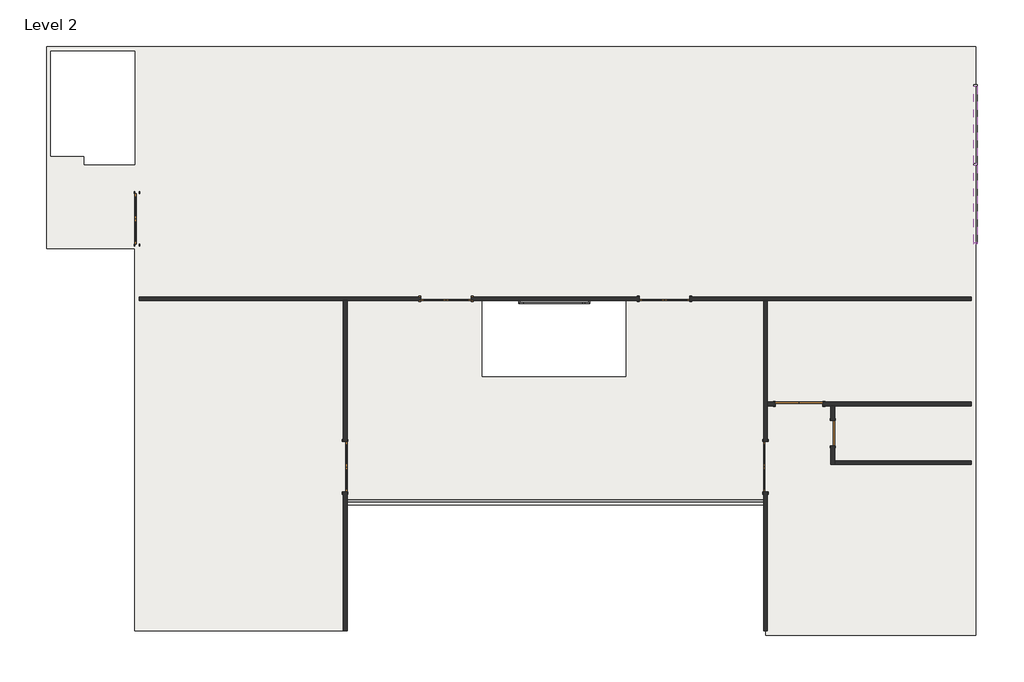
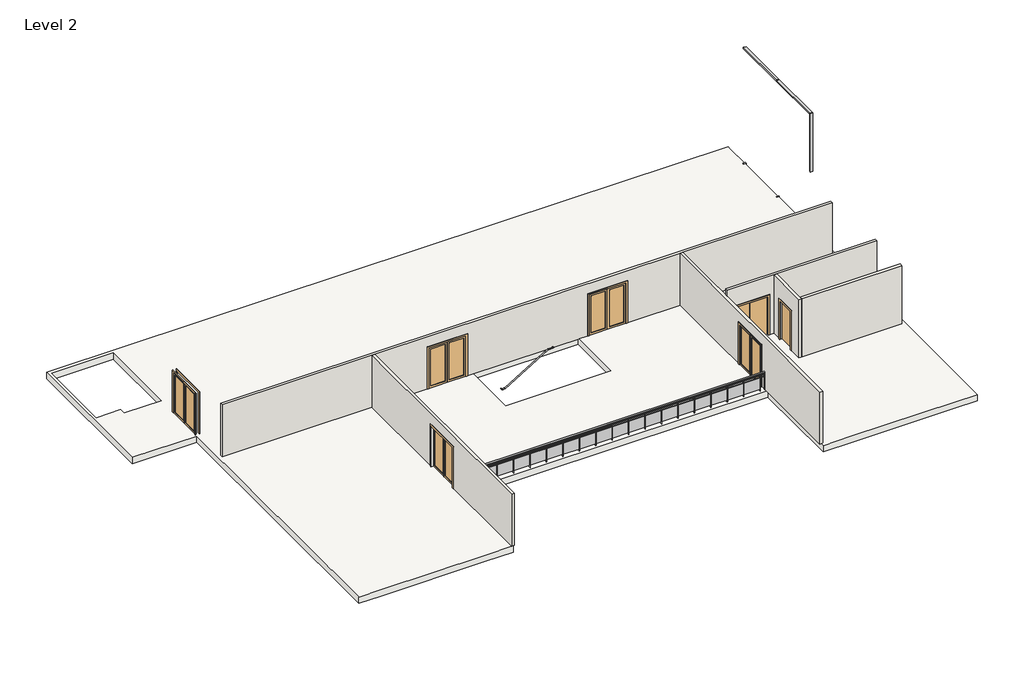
# One storey: 7 doors, 7 members, 6 walls, 2 railings, 1 slab.
"""IFC4 building model written with IfcOpenShell, lengths in millimetres."""

from ifc_helpers import new_model, si_unit, point, frame, origin, place, context, project, spatial, polyline, circle_curve, ellipse_curve, trimmed, outline, extrude, faceted_brep, transform, mapped, element, save
from ifc_brep_helpers import plane_surface, cylinder_surface, extruded_surface, advanced_brep
from components import door_dbb109fa, door_cb31edf2, door_3f2f997e, door_ad1ac78c, member_eaba9652, member_3f395ae9, member_b11f405a

model = new_model("IFC4")

# Units and contexts
model_context = context("Model", 3, world=origin())
ifc_project = project(units=[si_unit("LENGTHUNIT", "METRE", prefix="MILLI")], contexts=[model_context])

# Site, building, storey
site = spatial("IfcSite", under=ifc_project)
building = spatial("IfcBuilding", under=site)
storey = spatial("IfcBuildingStorey", under=building, Name="Level 2", Elevation=3048.0)

# Doors
placement = place(None, origin())
door_shape = door_dbb109fa(model_context)
element("IfcDoor", 1, ObjectType="Door-Double-Flush_Panel : 68\" x 80\"", at=placement, inside=storey, context=model_context, shape_type="MappedRepresentation", body=[
    mapped(door_shape, transform((5750.282618, 2799.5983604, 3048.0), x_axis=(1.0, 0.0, 0.0), y_axis=(0.0, 1.0, 0.0), z_axis=(0.0, 0.0, 1.0))),
])
door_2_shape = door_cb31edf2(model_context)
element("IfcDoor", 2, ObjectType="Door-Double-Glass : 72\" x 84\"", at=placement, inside=storey, context=model_context, shape_type="MappedRepresentation", body=[
    mapped(door_2_shape, transform((-18248.748632, 9505.1983604, 3048.0), x_axis=(0.0, 1.0, 0.0), y_axis=(-1.0, 0.0, 0.0), z_axis=(0.0, 0.0, 1.0))),
])
door_3_shape = door_3f2f997e(model_context)
element("IfcDoor", 3, ObjectType="Door-Double-Glass : 72\" x 84\"", at=placement, inside=storey, context=model_context, shape_type="MappedRepresentation", body=[
    mapped(door_3_shape, transform((-10711.298632, 513.5983604, 3048.0), x_axis=(0.0, -1.0, 0.0), y_axis=(1.0, 0.0, 0.0), z_axis=(0.0, 0.0, 1.0))),
])
element("IfcDoor", 4, ObjectType="Door-Double-Glass : 72\" x 84\"", at=placement, inside=storey, context=model_context, shape_type="MappedRepresentation", body=[
    mapped(door_3_shape, transform((4533.463868, 513.5983604, 3048.0), x_axis=(0.0, 1.0, 0.0), y_axis=(-1.0, 0.0, 0.0), z_axis=(0.0, 0.0, 1.0))),
])
element("IfcDoor", 5, ObjectType="Door-Double-Glass : 72\" x 84\"", at=placement, inside=storey, context=model_context, shape_type="MappedRepresentation", body=[
    mapped(door_3_shape, transform((-7051.317382, 6611.9796104, 3048.0), x_axis=(-1.0, 0.0, 0.0), y_axis=(0.0, -1.0, 0.0), z_axis=(0.0, 0.0, 1.0))),
])
element("IfcDoor", 6, ObjectType="Door-Double-Glass : 72\" x 84\"", at=placement, inside=storey, context=model_context, shape_type="MappedRepresentation", body=[
    mapped(door_3_shape, transform((873.482618, 6611.9796104, 3048.0), x_axis=(-1.0, 0.0, 0.0), y_axis=(0.0, -1.0, 0.0), z_axis=(0.0, 0.0, 1.0))),
])
door_4_shape = door_ad1ac78c(model_context)
element("IfcDoor", 7, ObjectType="Single-Flush : 36\" x 80\"", at=placement, inside=storey, context=model_context, shape_type="MappedRepresentation", body=[
    mapped(door_4_shape, transform((6969.482618, 1732.7983604, 3048.0), x_axis=(0.0, -1.0, 0.0), y_axis=(1.0, 0.0, 0.0), z_axis=(0.0, 0.0, 1.0))),
])

# Members
member_shape = member_eaba9652(model_context)
element("IfcMember", 8, ObjectType="Rectangular Mullion : 2.5\" x 5\" rectangular", at=placement, inside=storey, context=model_context, shape_type="MappedRepresentation", body=[
    mapped(member_shape, transform((12151.082618, 11486.3983604, 0.0), x_axis=(0.0, 1.0, 0.0), y_axis=(1.0, 0.0, 0.0), z_axis=(0.0, 0.0, -1.0))),
])
member_2_shape = member_3f395ae9(model_context)
element("IfcMember", 9, ObjectType="Rectangular Mullion : 2.5\" x 5\" rectangular", at=placement, inside=storey, context=model_context, shape_type="MappedRepresentation", body=[
    mapped(member_2_shape, transform((12151.082618, 8590.7983604, 9144.0), x_axis=(0.0, -1.0, 0.0), y_axis=(1.0, 0.0, 0.0), z_axis=(0.0, 0.0, 1.0))),
])
element("IfcMember", 10, ObjectType="Rectangular Mullion : 2.5\" x 5\" rectangular", at=placement, inside=storey, context=model_context, shape_type="MappedRepresentation", body=[
    mapped(member_2_shape, transform((12151.082618, 14381.9983604, 0.0), x_axis=(0.0, 1.0, 0.0), y_axis=(1.0, 0.0, 0.0), z_axis=(0.0, 0.0, -1.0))),
])
member_3_shape = member_b11f405a(model_context)
element("IfcMember", 11, ObjectType="Rectangular Mullion : 2.5\" x 5\" rectangular", at=placement, inside=storey, context=model_context, shape_type="MappedRepresentation", body=[
    mapped(member_3_shape, transform((12151.082618, 14318.4983604, 9144.0), x_axis=(0.0, 0.0, 1.0), y_axis=(1.0, 0.0, 0.0), z_axis=(0.0, 1.0, 0.0))),
])
element("IfcMember", 12, ObjectType="Rectangular Mullion : 2.5\" x 5\" rectangular", at=placement, inside=storey, context=model_context, shape_type="MappedRepresentation", body=[
    mapped(member_3_shape, transform((12151.082618, 11454.6483604, 9144.0), x_axis=(0.0, 0.0, 1.0), y_axis=(1.0, 0.0, 0.0), z_axis=(0.0, 1.0, 0.0))),
])
element("IfcMember", 13, ObjectType="Rectangular Mullion : 2.5\" x 5\" rectangular", at=placement, inside=storey, context=model_context, shape_type="MappedRepresentation", body=[
    mapped(member_3_shape, transform((12151.082618, 8654.2983604, 0.0), x_axis=(0.0, 0.0, -1.0), y_axis=(1.0, 0.0, 0.0), z_axis=(0.0, -1.0, 0.0))),
])
element("IfcMember", 14, ObjectType="Rectangular Mullion : 2.5\" x 5\" rectangular", at=placement, inside=storey, context=model_context, shape_type="MappedRepresentation", body=[
    mapped(member_3_shape, transform((12151.082618, 11518.1483604, 0.0), x_axis=(0.0, 0.0, -1.0), y_axis=(1.0, 0.0, 0.0), z_axis=(0.0, -1.0, 0.0))),
])

# Railings
element("IfcRailing", 15, ObjectType="Glass Panel - Bottom Fill", at=placement, inside=storey, context=model_context, shape_type="SolidModel", body=[
    advanced_brep(
    [(-10639.067382, -677.0266396, 3962.4), (-10639.067382, -753.2266396, 3962.4), (4461.232618, -677.0266396, 3962.4), (4461.232618, -753.2266396, 3962.4)],
    [
        (0, 1, ellipse_curve(frame((-10639.067382, -715.1266396, 3962.4), z_axis=(-1.0, 0.0, 0.0), x_axis=(0.0, -1.0, 0.0)), 38.1, 28.575)),
        (1, 0, ellipse_curve(frame((-10639.067382, -715.1266396, 3962.4), z_axis=(-1.0, 0.0, 0.0), x_axis=(0.0, -1.0, 0.0)), 38.1, 28.575)),
        (2, 3, ellipse_curve(frame((4461.232618, -715.1266396, 3962.4), z_axis=(1.0, 0.0, 0.0), x_axis=(0.0, -1.0, 0.0)), 38.1, 28.575)),
        (3, 2, ellipse_curve(frame((4461.232618, -715.1266396, 3962.4), z_axis=(1.0, 0.0, 0.0), x_axis=(0.0, -1.0, 0.0)), 38.1, 28.575)),
        (0, 2),
        (3, 1),
    ],
    [
        plane_surface(frame((-10639.067382, -715.1266396, 3962.4), z_axis=(-1.0, 0.0, 0.0), x_axis=(0.0, 1.0, 0.0))),
        plane_surface(frame((4461.232618, -715.1266396, 3962.4), z_axis=(1.0, 0.0, 0.0), x_axis=(0.0, 1.0, 0.0))),
        extruded_surface(trimmed(ellipse_curve(frame((4461.232618, -715.1266396, 3962.4), z_axis=(-1.0, 0.0, 0.0), x_axis=(0.0, -1.0, 0.0)), 38.1, 28.575), [point((4461.232618, -677.0266396, 3962.4))], [point((4461.232618, -753.2266396, 3962.4))], True, "CARTESIAN"), (-15100.3, 0.0, 0.0), 15100.3),
        extruded_surface(trimmed(ellipse_curve(frame((4461.232618, -715.1266396, 3962.4), z_axis=(-1.0, 0.0, 0.0), x_axis=(0.0, -1.0, 0.0)), 38.1, 28.575), [point((4461.232618, -753.2266396, 3962.4))], [point((4461.232618, -677.0266396, 3962.4))], True, "CARTESIAN"), (-15100.3, 0.0, 0.0), 15100.3),
    ],
    [
        (0, [[1, 2]]),
        (1, [[3, 4]]),
        (2, [[-1, 5, -4, 6]]),
        (3, [[-2, -6, -3, -5]]),
    ],
),
    extrude(outline(polyline([(-10639.067382, -727.8266396), (-10639.067382, -702.4266396), (4461.232618, -702.4266396), (4461.232618, -727.8266396), (-10639.067382, -727.8266396)])), frame((0.0, 0.0, 3848.1), z_axis=(0.0, 0.0, 1.0), x_axis=(1.0, 0.0, 0.0)), (0.0, 0.0, 1.0), 25.4),
    extrude(outline(polyline([(-10639.067382, -727.8266396), (-10639.067382, -702.4266396), (4461.232618, -702.4266396), (4461.232618, -727.8266396), (-10639.067382, -727.8266396)])), frame((0.0, 0.0, 3746.5), z_axis=(0.0, 0.0, 1.0), x_axis=(1.0, 0.0, 0.0)), (0.0, 0.0, 1.0), 25.4),
    extrude(outline(polyline([(4219.932618, -740.5266396), (4219.932618, -689.7266396), (4232.632618, -689.7266396), (4232.632618, -740.5266396), (4219.932618, -740.5266396)])), frame((0.0, 0.0, 3048.0), z_axis=(0.0, 0.0, 1.0), x_axis=(1.0, 0.0, 0.0)), (0.0, 0.0, 1.0), 885.6788223),
    extrude(outline(polyline([(3413.482618, -708.5914825), (4226.282618, -708.5914825), (4226.282618, -714.9414825), (3413.482618, -714.9414825), (3413.482618, -708.5914825)])), frame((0.0, 0.0, 3149.6), z_axis=(0.0, 0.0, 1.0), x_axis=(1.0, 0.0, 0.0)), (0.0, 0.0, 1.0), 596.9),
    extrude(outline(polyline([(3407.132618, -740.5266396), (3407.132618, -689.7266396), (3419.832618, -689.7266396), (3419.832618, -740.5266396), (3407.132618, -740.5266396)])), frame((0.0, 0.0, 3048.0), z_axis=(0.0, 0.0, 1.0), x_axis=(1.0, 0.0, 0.0)), (0.0, 0.0, 1.0), 885.6788223),
    extrude(outline(polyline([(2600.682618, -708.5914825), (3413.482618, -708.5914825), (3413.482618, -714.9414825), (2600.682618, -714.9414825), (2600.682618, -708.5914825)])), frame((0.0, 0.0, 3149.6), z_axis=(0.0, 0.0, 1.0), x_axis=(1.0, 0.0, 0.0)), (0.0, 0.0, 1.0), 596.9),
    extrude(outline(polyline([(2594.332618, -740.5266396), (2594.332618, -689.7266396), (2607.032618, -689.7266396), (2607.032618, -740.5266396), (2594.332618, -740.5266396)])), frame((0.0, 0.0, 3048.0), z_axis=(0.0, 0.0, 1.0), x_axis=(1.0, 0.0, 0.0)), (0.0, 0.0, 1.0), 885.6788223),
    extrude(outline(polyline([(1787.882618, -708.5914825), (2600.682618, -708.5914825), (2600.682618, -714.9414825), (1787.882618, -714.9414825), (1787.882618, -708.5914825)])), frame((0.0, 0.0, 3149.6), z_axis=(0.0, 0.0, 1.0), x_axis=(1.0, 0.0, 0.0)), (0.0, 0.0, 1.0), 596.9),
    extrude(outline(polyline([(1781.532618, -740.5266396), (1781.532618, -689.7266396), (1794.232618, -689.7266396), (1794.232618, -740.5266396), (1781.532618, -740.5266396)])), frame((0.0, 0.0, 3048.0), z_axis=(0.0, 0.0, 1.0), x_axis=(1.0, 0.0, 0.0)), (0.0, 0.0, 1.0), 885.6788223),
    extrude(outline(polyline([(975.082618, -708.5914825), (1787.882618, -708.5914825), (1787.882618, -714.9414825), (975.082618, -714.9414825), (975.082618, -708.5914825)])), frame((0.0, 0.0, 3149.6), z_axis=(0.0, 0.0, 1.0), x_axis=(1.0, 0.0, 0.0)), (0.0, 0.0, 1.0), 596.9),
    extrude(outline(polyline([(968.732618, -740.5266396), (968.732618, -689.7266396), (981.432618, -689.7266396), (981.432618, -740.5266396), (968.732618, -740.5266396)])), frame((0.0, 0.0, 3048.0), z_axis=(0.0, 0.0, 1.0), x_axis=(1.0, 0.0, 0.0)), (0.0, 0.0, 1.0), 885.6788223),
    extrude(outline(polyline([(162.282618, -708.5914825), (975.082618, -708.5914825), (975.082618, -714.9414825), (162.282618, -714.9414825), (162.282618, -708.5914825)])), frame((0.0, 0.0, 3149.6), z_axis=(0.0, 0.0, 1.0), x_axis=(1.0, 0.0, 0.0)), (0.0, 0.0, 1.0), 596.9),
    extrude(outline(polyline([(155.932618, -740.5266396), (155.932618, -689.7266396), (168.632618, -689.7266396), (168.632618, -740.5266396), (155.932618, -740.5266396)])), frame((0.0, 0.0, 3048.0), z_axis=(0.0, 0.0, 1.0), x_axis=(1.0, 0.0, 0.0)), (0.0, 0.0, 1.0), 885.6788223),
    extrude(outline(polyline([(-650.517382, -708.5914825), (162.282618, -708.5914825), (162.282618, -714.9414825), (-650.517382, -714.9414825), (-650.517382, -708.5914825)])), frame((0.0, 0.0, 3149.6), z_axis=(0.0, 0.0, 1.0), x_axis=(1.0, 0.0, 0.0)), (0.0, 0.0, 1.0), 596.9),
    extrude(outline(polyline([(-656.867382, -740.5266396), (-656.867382, -689.7266396), (-644.167382, -689.7266396), (-644.167382, -740.5266396), (-656.867382, -740.5266396)])), frame((0.0, 0.0, 3048.0), z_axis=(0.0, 0.0, 1.0), x_axis=(1.0, 0.0, 0.0)), (0.0, 0.0, 1.0), 885.6788223),
    extrude(outline(polyline([(-1463.317382, -708.5914825), (-650.517382, -708.5914825), (-650.517382, -714.9414825), (-1463.317382, -714.9414825), (-1463.317382, -708.5914825)])), frame((0.0, 0.0, 3149.6), z_axis=(0.0, 0.0, 1.0), x_axis=(1.0, 0.0, 0.0)), (0.0, 0.0, 1.0), 596.9),
    extrude(outline(polyline([(-1469.667382, -740.5266396), (-1469.667382, -689.7266396), (-1456.967382, -689.7266396), (-1456.967382, -740.5266396), (-1469.667382, -740.5266396)])), frame((0.0, 0.0, 3048.0), z_axis=(0.0, 0.0, 1.0), x_axis=(1.0, 0.0, 0.0)), (0.0, 0.0, 1.0), 885.6788223),
    extrude(outline(polyline([(-2276.117382, -708.5914825), (-1463.317382, -708.5914825), (-1463.317382, -714.9414825), (-2276.117382, -714.9414825), (-2276.117382, -708.5914825)])), frame((0.0, 0.0, 3149.6), z_axis=(0.0, 0.0, 1.0), x_axis=(1.0, 0.0, 0.0)), (0.0, 0.0, 1.0), 596.9),
    extrude(outline(polyline([(-2282.467382, -740.5266396), (-2282.467382, -689.7266396), (-2269.767382, -689.7266396), (-2269.767382, -740.5266396), (-2282.467382, -740.5266396)])), frame((0.0, 0.0, 3048.0), z_axis=(0.0, 0.0, 1.0), x_axis=(1.0, 0.0, 0.0)), (0.0, 0.0, 1.0), 885.6788223),
    extrude(outline(polyline([(-3088.917382, -708.5914825), (-2276.117382, -708.5914825), (-2276.117382, -714.9414825), (-3088.917382, -714.9414825), (-3088.917382, -708.5914825)])), frame((0.0, 0.0, 3149.6), z_axis=(0.0, 0.0, 1.0), x_axis=(1.0, 0.0, 0.0)), (0.0, 0.0, 1.0), 596.9),
    extrude(outline(polyline([(-3095.267382, -740.5266396), (-3095.267382, -689.7266396), (-3082.567382, -689.7266396), (-3082.567382, -740.5266396), (-3095.267382, -740.5266396)])), frame((0.0, 0.0, 3048.0), z_axis=(0.0, 0.0, 1.0), x_axis=(1.0, 0.0, 0.0)), (0.0, 0.0, 1.0), 885.6788223),
    extrude(outline(polyline([(-3901.717382, -708.5914825), (-3088.917382, -708.5914825), (-3088.917382, -714.9414825), (-3901.717382, -714.9414825), (-3901.717382, -708.5914825)])), frame((0.0, 0.0, 3149.6), z_axis=(0.0, 0.0, 1.0), x_axis=(1.0, 0.0, 0.0)), (0.0, 0.0, 1.0), 596.9),
    extrude(outline(polyline([(-3908.067382, -740.5266396), (-3908.067382, -689.7266396), (-3895.367382, -689.7266396), (-3895.367382, -740.5266396), (-3908.067382, -740.5266396)])), frame((0.0, 0.0, 3048.0), z_axis=(0.0, 0.0, 1.0), x_axis=(1.0, 0.0, 0.0)), (0.0, 0.0, 1.0), 885.6788223),
    extrude(outline(polyline([(-4714.517382, -708.5914825), (-3901.717382, -708.5914825), (-3901.717382, -714.9414825), (-4714.517382, -714.9414825), (-4714.517382, -708.5914825)])), frame((0.0, 0.0, 3149.6), z_axis=(0.0, 0.0, 1.0), x_axis=(1.0, 0.0, 0.0)), (0.0, 0.0, 1.0), 596.9),
    extrude(outline(polyline([(-4720.867382, -740.5266396), (-4720.867382, -689.7266396), (-4708.167382, -689.7266396), (-4708.167382, -740.5266396), (-4720.867382, -740.5266396)])), frame((0.0, 0.0, 3048.0), z_axis=(0.0, 0.0, 1.0), x_axis=(1.0, 0.0, 0.0)), (0.0, 0.0, 1.0), 885.6788223),
    extrude(outline(polyline([(-5527.317382, -708.5914825), (-4714.517382, -708.5914825), (-4714.517382, -714.9414825), (-5527.317382, -714.9414825), (-5527.317382, -708.5914825)])), frame((0.0, 0.0, 3149.6), z_axis=(0.0, 0.0, 1.0), x_axis=(1.0, 0.0, 0.0)), (0.0, 0.0, 1.0), 596.9),
    extrude(outline(polyline([(-5533.667382, -740.5266396), (-5533.667382, -689.7266396), (-5520.967382, -689.7266396), (-5520.967382, -740.5266396), (-5533.667382, -740.5266396)])), frame((0.0, 0.0, 3048.0), z_axis=(0.0, 0.0, 1.0), x_axis=(1.0, 0.0, 0.0)), (0.0, 0.0, 1.0), 885.6788223),
    extrude(outline(polyline([(-6340.117382, -708.5914825), (-5527.317382, -708.5914825), (-5527.317382, -714.9414825), (-6340.117382, -714.9414825), (-6340.117382, -708.5914825)])), frame((0.0, 0.0, 3149.6), z_axis=(0.0, 0.0, 1.0), x_axis=(1.0, 0.0, 0.0)), (0.0, 0.0, 1.0), 596.9),
    extrude(outline(polyline([(-6346.467382, -740.5266396), (-6346.467382, -689.7266396), (-6333.767382, -689.7266396), (-6333.767382, -740.5266396), (-6346.467382, -740.5266396)])), frame((0.0, 0.0, 3048.0), z_axis=(0.0, 0.0, 1.0), x_axis=(1.0, 0.0, 0.0)), (0.0, 0.0, 1.0), 885.6788223),
    extrude(outline(polyline([(-7152.917382, -708.5914825), (-6340.117382, -708.5914825), (-6340.117382, -714.9414825), (-7152.917382, -714.9414825), (-7152.917382, -708.5914825)])), frame((0.0, 0.0, 3149.6), z_axis=(0.0, 0.0, 1.0), x_axis=(1.0, 0.0, 0.0)), (0.0, 0.0, 1.0), 596.9),
    extrude(outline(polyline([(-7159.267382, -740.5266396), (-7159.267382, -689.7266396), (-7146.567382, -689.7266396), (-7146.567382, -740.5266396), (-7159.267382, -740.5266396)])), frame((0.0, 0.0, 3048.0), z_axis=(0.0, 0.0, 1.0), x_axis=(1.0, 0.0, 0.0)), (0.0, 0.0, 1.0), 885.6788223),
    extrude(outline(polyline([(-7965.717382, -708.5914825), (-7152.917382, -708.5914825), (-7152.917382, -714.9414825), (-7965.717382, -714.9414825), (-7965.717382, -708.5914825)])), frame((0.0, 0.0, 3149.6), z_axis=(0.0, 0.0, 1.0), x_axis=(1.0, 0.0, 0.0)), (0.0, 0.0, 1.0), 596.9),
    extrude(outline(polyline([(-7972.067382, -740.5266396), (-7972.067382, -689.7266396), (-7959.367382, -689.7266396), (-7959.367382, -740.5266396), (-7972.067382, -740.5266396)])), frame((0.0, 0.0, 3048.0), z_axis=(0.0, 0.0, 1.0), x_axis=(1.0, 0.0, 0.0)), (0.0, 0.0, 1.0), 885.6788223),
    extrude(outline(polyline([(-8778.517382, -708.5914825), (-7965.717382, -708.5914825), (-7965.717382, -714.9414825), (-8778.517382, -714.9414825), (-8778.517382, -708.5914825)])), frame((0.0, 0.0, 3149.6), z_axis=(0.0, 0.0, 1.0), x_axis=(1.0, 0.0, 0.0)), (0.0, 0.0, 1.0), 596.9),
    extrude(outline(polyline([(-8784.867382, -740.5266396), (-8784.867382, -689.7266396), (-8772.167382, -689.7266396), (-8772.167382, -740.5266396), (-8784.867382, -740.5266396)])), frame((0.0, 0.0, 3048.0), z_axis=(0.0, 0.0, 1.0), x_axis=(1.0, 0.0, 0.0)), (0.0, 0.0, 1.0), 885.6788223),
    extrude(outline(polyline([(-9591.317382, -708.5914825), (-8778.517382, -708.5914825), (-8778.517382, -714.9414825), (-9591.317382, -714.9414825), (-9591.317382, -708.5914825)])), frame((0.0, 0.0, 3149.6), z_axis=(0.0, 0.0, 1.0), x_axis=(1.0, 0.0, 0.0)), (0.0, 0.0, 1.0), 596.9),
    extrude(outline(polyline([(-9597.667382, -740.5266396), (-9597.667382, -689.7266396), (-9584.967382, -689.7266396), (-9584.967382, -740.5266396), (-9597.667382, -740.5266396)])), frame((0.0, 0.0, 3048.0), z_axis=(0.0, 0.0, 1.0), x_axis=(1.0, 0.0, 0.0)), (0.0, 0.0, 1.0), 885.6788223),
    extrude(outline(polyline([(-10404.117382, -708.5914825), (-9591.317382, -708.5914825), (-9591.317382, -714.9414825), (-10404.117382, -714.9414825), (-10404.117382, -708.5914825)])), frame((0.0, 0.0, 3149.6), z_axis=(0.0, 0.0, 1.0), x_axis=(1.0, 0.0, 0.0)), (0.0, 0.0, 1.0), 596.9),
    extrude(outline(polyline([(-10410.467382, -740.5266396), (-10410.467382, -689.7266396), (-10397.767382, -689.7266396), (-10397.767382, -740.5266396), (-10410.467382, -740.5266396)])), frame((0.0, 0.0, 3048.0), z_axis=(0.0, 0.0, 1.0), x_axis=(1.0, 0.0, 0.0)), (0.0, 0.0, 1.0), 885.6788223),
    extrude(outline(polyline([(4448.532618, -724.6516396), (4448.532618, -705.6016396), (4467.582618, -705.6016396), (4467.582618, -724.6516396), (4448.532618, -724.6516396)])), frame((0.0, 0.0, 3048.0), z_axis=(0.0, 0.0, 1.0), x_axis=(1.0, 0.0, 0.0)), (0.0, 0.0, 1.0), 885.6788223),
    extrude(outline(polyline([(-10645.417382, -724.6516396), (-10645.417382, -705.6016396), (-10626.367382, -705.6016396), (-10626.367382, -724.6516396), (-10645.417382, -724.6516396)])), frame((0.0, 0.0, 3048.0), z_axis=(0.0, 0.0, 1.0), x_axis=(1.0, 0.0, 0.0)), (0.0, 0.0, 1.0), 885.6788223),
])
element("IfcRailing", 16, ObjectType="Wall Mount Handrail", at=placement, inside=storey, context=model_context, shape_type="AdvancedBrep", body=[
    advanced_brep(
    [(-4236.7479685, 6482.5983604, 1805.1362182), (-4236.7479685, 6444.4983604, 1805.1362182), (-2105.6952284, 6444.4983604, 3096.6833333), (-2105.6952284, 6482.5983604, 3096.6833333), (-2006.870122, 6444.4983604, 3096.6833333), (-2006.870122, 6482.5983604, 3096.6833333), (-4413.520122, 6539.7483604, 1805.1362182), (-4375.420122, 6539.7483604, 1805.1362182), (-4413.520122, 6444.4983604, 1805.1362182), (-4375.420122, 6482.5983604, 1805.1362182), (-1835.420122, 6444.4983604, 3096.6833333), (-1873.520122, 6482.5983604, 3096.6833333), (-1835.420122, 6539.7483604, 3096.6833333), (-1873.520122, 6539.7483604, 3096.6833333)],
    [
        (0, 1, ellipse_curve(frame((-4236.7479685, 6463.5483604, 1805.1362182), z_axis=(0.963119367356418, 0.0, 0.2690744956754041), x_axis=(0.2690744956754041, 0.0, -0.9631193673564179)), 19.7794797, 19.05)),
        (1, 2),
        (2, 3, ellipse_curve(frame((-2105.6952284, 6463.5483604, 3096.6833333), z_axis=(-0.963119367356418, 0.0, -0.26907449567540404), x_axis=(0.26907449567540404, 0.0, -0.9631193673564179)), 19.7794797, 19.05)),
        (3, 0),
        (1, 0, ellipse_curve(frame((-4236.7479685, 6463.5483604, 1805.1362182), z_axis=(0.963119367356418, 0.0, 0.2690744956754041), x_axis=(0.2690744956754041, 0.0, -0.9631193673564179)), 19.7794797, 19.05)),
        (3, 2, ellipse_curve(frame((-2105.6952284, 6463.5483604, 3096.6833333), z_axis=(-0.963119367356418, 0.0, -0.26907449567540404), x_axis=(0.26907449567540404, 0.0, -0.9631193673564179)), 19.7794797, 19.05)),
        (2, 4),
        (4, 5, circle_curve(frame((-2006.870122, 6463.5483604, 3096.6833333), z_axis=(-1.0, 0.0, 0.0), x_axis=(0.0, 1.0, 0.0)), 19.05)),
        (5, 3),
        (5, 4, circle_curve(frame((-2006.870122, 6463.5483604, 3096.6833333), z_axis=(-1.0, 0.0, 0.0), x_axis=(0.0, 1.0, 0.0)), 19.05)),
        (6, 7, circle_curve(frame((-4394.470122, 6539.7483604, 1805.1362182), z_axis=(0.0, 1.0, 0.0), x_axis=(1.0, 0.0, 0.0)), 19.05)),
        (7, 6, circle_curve(frame((-4394.470122, 6539.7483604, 1805.1362182), z_axis=(0.0, 1.0, 0.0), x_axis=(1.0, 0.0, 0.0)), 19.05)),
        (6, 8),
        (8, 9, ellipse_curve(frame((-4394.470122, 6463.5483604, 1805.1362182), z_axis=(-0.7071067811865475, 0.7071067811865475, 0.0), x_axis=(0.7071067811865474, 0.7071067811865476, 0.0)), 26.9407684, 19.05)),
        (9, 7),
        (9, 8, ellipse_curve(frame((-4394.470122, 6463.5483604, 1805.1362182), z_axis=(-0.7071067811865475, 0.7071067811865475, 0.0), x_axis=(0.7071067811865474, 0.7071067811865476, 0.0)), 26.9407684, 19.05)),
        (8, 1),
        (0, 9),
        (4, 10),
        (10, 11, ellipse_curve(frame((-1854.470122, 6463.5483604, 3096.6833333), z_axis=(-0.7071067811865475, -0.7071067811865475, 0.0), x_axis=(-0.7071067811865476, 0.7071067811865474, 0.0)), 26.9407684, 19.05)),
        (11, 5),
        (11, 10, ellipse_curve(frame((-1854.470122, 6463.5483604, 3096.6833333), z_axis=(-0.7071067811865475, -0.7071067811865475, 0.0), x_axis=(-0.7071067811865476, 0.7071067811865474, 0.0)), 26.9407684, 19.05)),
        (12, 13, circle_curve(frame((-1854.470122, 6539.7483604, 3096.6833333), z_axis=(0.0, 1.0, 0.0), x_axis=(-1.0, 0.0, 0.0)), 19.05)),
        (13, 12, circle_curve(frame((-1854.470122, 6539.7483604, 3096.6833333), z_axis=(0.0, 1.0, 0.0), x_axis=(-1.0, 0.0, 0.0)), 19.05)),
        (10, 12),
        (13, 11),
    ],
    [
        cylinder_surface(frame((-4232.1964743, 6463.5483604, 1807.8946995), z_axis=(-0.8551978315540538, 0.0, -0.5183017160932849), x_axis=(0.0, 1.0, 0.0)), 19.05),
        cylinder_surface(frame((-2111.017382, 6463.5483604, 3096.6833333), z_axis=(-1.0, 0.0, 0.0), x_axis=(0.0, 1.0, 0.0)), 19.05),
        plane_surface(frame((-4394.470122, 6539.7483604, 1824.1862182), z_axis=(0.0, 1.0, 0.0), x_axis=(0.0, 0.0, -1.0))),
        cylinder_surface(frame((-4394.470122, 6539.7483604, 1805.1362182), z_axis=(0.0, 1.0, 0.0), x_axis=(1.0, 0.0, 0.0)), 19.05),
        cylinder_surface(frame((-4394.470122, 6463.5483604, 1805.1362182), z_axis=(-1.0, 0.0, 0.0), x_axis=(0.0, 1.0, 0.0)), 19.05),
        cylinder_surface(frame((-2006.870122, 6463.5483604, 3096.6833333), z_axis=(-1.0, 0.0, 0.0), x_axis=(0.0, 1.0, 0.0)), 19.05),
        plane_surface(frame((-1854.470122, 6539.7483604, 3115.7333333), z_axis=(0.0, 1.0, 0.0), x_axis=(0.0, 0.0, 1.0))),
        cylinder_surface(frame((-1854.470122, 6463.5483604, 3096.6833333), z_axis=(0.0, -1.0, 0.0), x_axis=(-1.0, 0.0, 0.0)), 19.05),
    ],
    [
        (0, [[1, 2, 3, 4]]),
        (0, [[5, -4, 6, -2]]),
        (1, [[-3, 7, 8, 9]]),
        (1, [[-6, -9, 10, -7]]),
        (2, [[11, 12]]),
        (3, [[-11, 13, 14, 15]]),
        (3, [[-12, -15, 16, -13]]),
        (4, [[-14, 17, -1, 18]]),
        (4, [[-16, -18, -5, -17]]),
        (5, [[-8, 19, 20, 21]]),
        (5, [[-10, -21, 22, -19]]),
        (6, [[23, 24]]),
        (7, [[-20, 25, -24, 26]]),
        (7, [[-22, -26, -23, -25]]),
    ],
),
])

# Slab
element("IfcSlab", 17, ObjectType="Wood Truss  Joist 12\" - Carpet Finish ", at=placement, inside=storey, context=model_context, shape_type="Brep", body=[
    faceted_brep([(12160.607618, 15763.1233604, 2724.15), (12160.607618, 15598.0233604, 2724.15), (12160.607618, 14381.9983604, 2724.15), (12160.607618, 8590.7983604, 2724.15), (12160.607618, -5591.9266396, 2724.15), (11995.507618, -5591.9266396, 2724.15), (11084.282618, -5591.9266396, 2724.15), (5902.682618, -5591.9266396, 2724.15), (4531.082618, -5591.9266396, 2724.15), (4531.082618, -5426.8266396, 2724.15), (4531.082618, -867.5266396, 2724.15), (-10708.917382, -867.5266396, 2724.15), (-10708.917382, -5426.8266396, 2724.15), (-10708.917382, -5439.5266396, 2724.15), (-12080.517382, -5439.5266396, 2724.15), (-17262.117382, -5439.5266396, 2724.15), (-18338.442382, -5439.5266396, 2724.15), (-18338.442382, -5426.8266396, 2724.15), (-18338.442382, 8438.3983604, 2724.15), (-21532.492382, 8438.3983604, 2724.15), (-21532.492382, 15763.1233604, 2724.15), (-21376.917382, 15763.1233604, 2724.15), (-10404.117382, 15763.1233604, 2724.15), (4226.282618, 15763.1233604, 2724.15), (-5743.217382, 3796.5483604, 2724.15), (-536.217382, 3796.5483604, 2724.15), (-536.217382, 6609.5983604, 2724.15), (-5743.217382, 6609.5983604, 2724.15), (-18328.917382, 11483.2233604, 2724.15), (-18328.917382, 15598.0233604, 2724.15), (-21376.917382, 15598.0233604, 2724.15), (-21376.917382, 11788.0233604, 2724.15), (-20157.717382, 11788.0233604, 2724.15), (-20157.717382, 11483.2233604, 2724.15), (12160.607618, -5591.9266396, 3048.0), (12160.607618, 8590.7983604, 3048.0), (12160.607618, 14381.9983604, 3048.0), (12160.607618, 15598.0233604, 3048.0), (12160.607618, 15763.1233604, 3048.0), (4226.282618, 15763.1233604, 3048.0), (-10404.117382, 15763.1233604, 3048.0), (-21376.917382, 15763.1233604, 3048.0), (-21532.492382, 15763.1233604, 3048.0), (-21532.492382, 8438.3983604, 3048.0), (-18338.442382, 8438.3983604, 3048.0), (-18338.442382, -5426.8266396, 3048.0), (-18338.442382, -5439.5266396, 3048.0), (-17262.117382, -5439.5266396, 3048.0), (-12080.517382, -5439.5266396, 3048.0), (-10708.917382, -5439.5266396, 3048.0), (-10708.917382, -5426.8266396, 3048.0), (-10708.917382, -867.5266396, 3048.0), (4531.082618, -867.5266396, 3048.0), (4531.082618, -5426.8266396, 3048.0), (4531.082618, -5591.9266396, 3048.0), (5902.682618, -5591.9266396, 3048.0), (11084.282618, -5591.9266396, 3048.0), (11995.507618, -5591.9266396, 3048.0), (-536.217382, 3796.5483604, 3048.0), (-5743.217382, 3796.5483604, 3048.0), (-5743.217382, 6609.5983604, 3048.0), (-536.217382, 6609.5983604, 3048.0), (-18328.917382, 15598.0233604, 3048.0), (-18328.917382, 11483.2233604, 3048.0), (-20157.717382, 11483.2233604, 3048.0), (-20157.717382, 11788.0233604, 3048.0), (-21376.917382, 11788.0233604, 3048.0), (-21376.917382, 15598.0233604, 3048.0)], [[[0, 1, 2, 3, 4, 5, 6, 7, 8, 9, 10, 11, 12, 13, 14, 15, 16, 17, 18, 19, 20, 21, 22, 23], [24, 25, 26, 27], [28, 29, 30, 31, 32, 33]], [[34, 35, 36, 37, 38, 39, 40, 41, 42, 43, 44, 45, 46, 47, 48, 49, 50, 51, 52, 53, 54, 55, 56, 57], [58, 59, 60, 61], [62, 63, 64, 65, 66, 67]], [[4, 3, 2, 1, 0, 38, 37, 36, 35, 34]], [[8, 7, 6, 5, 4, 34, 57, 56, 55, 54]], [[16, 15, 14, 13, 49, 48, 47, 46]], [[18, 17, 16, 46, 45, 44]], [[19, 18, 44, 43]], [[20, 19, 43, 42]], [[0, 23, 22, 21, 20, 42, 41, 40, 39, 38]], [[10, 9, 8, 54, 53, 52]], [[11, 10, 52, 51]], [[13, 12, 11, 51, 50, 49]], [[24, 59, 58, 25]], [[25, 58, 61, 26]], [[26, 61, 60, 27]], [[59, 24, 27, 60]], [[28, 63, 62, 29]], [[29, 62, 67, 30]], [[30, 67, 66, 31]], [[31, 66, 65, 32]], [[32, 65, 64, 33]], [[63, 28, 33, 64]]]),
])

# Walls
element("IfcWall", 18, ObjectType="Interior - 5 1/2\" Partition (1-hr)", at=placement, inside=storey, context=model_context, shape_type="Brep", body=[
    faceted_brep([(-6136.917382, 6539.7483604, 3048.0), (-40.917382, 6539.7483604, 3048.0), (-40.917382, 6539.7483604, 5181.6), (1787.882618, 6539.7483604, 5181.6), (1787.882618, 6539.7483604, 3048.0), (4461.232618, 6539.7483604, 3048.0), (4600.932618, 6539.7483604, 3048.0), (11995.507618, 6539.7483604, 3048.0), (11995.507618, 6539.7483604, 5772.15), (4600.932618, 6539.7483604, 5772.15), (4461.232618, 6539.7483604, 5772.15), (-10639.067382, 6539.7483604, 5772.15), (-10778.767382, 6539.7483604, 5772.15), (-18173.342382, 6539.7483604, 5772.15), (-18173.342382, 6539.7483604, 3048.0), (-10778.767382, 6539.7483604, 3048.0), (-10639.067382, 6539.7483604, 3048.0), (-7965.717382, 6539.7483604, 3048.0), (-7965.717382, 6539.7483604, 5181.6), (-6136.917382, 6539.7483604, 5181.6), (-40.917382, 6679.4483604, 5181.6), (-40.917382, 6679.4483604, 3048.0), (-6136.917382, 6679.4483604, 3048.0), (-6136.917382, 6679.4483604, 5181.6), (-7965.717382, 6679.4483604, 5181.6), (-7965.717382, 6679.4483604, 3048.0), (-18173.342382, 6679.4483604, 3048.0), (-18173.342382, 6679.4483604, 5772.15), (11995.507618, 6679.4483604, 5772.15), (11995.507618, 6679.4483604, 3048.0), (1787.882618, 6679.4483604, 3048.0), (1787.882618, 6679.4483604, 5181.6)], [[[0, 1, 2, 3, 4, 5, 6, 7, 8, 9, 10, 11, 12, 13, 14, 15, 16, 17, 18, 19]], [[20, 21, 22, 23, 24, 25, 26, 27, 28, 29, 30, 31]], [[26, 25, 17, 16, 15, 14]], [[30, 29, 7, 6, 5, 4]], [[22, 21, 1, 0]], [[13, 12, 11, 10, 9, 8, 28, 27]], [[14, 13, 27, 26]], [[2, 1, 21, 20]], [[3, 2, 20, 31]], [[4, 3, 31, 30]], [[18, 17, 25, 24]], [[19, 18, 24, 23]], [[0, 19, 23, 22]], [[8, 7, 29, 28]]]),
])
element("IfcWall", 19, ObjectType="Interior - 5 1/2\" Partition (1-hr)", at=placement, inside=storey, context=model_context, shape_type="Brep", body=[
    faceted_brep([(4461.232618, 6539.7483604, 3048.0), (4461.232618, 1427.9983604, 3048.0), (4461.232618, 1427.9983604, 5181.6), (4461.232618, -400.8016396, 5181.6), (4461.232618, -400.8016396, 3048.0), (4461.232618, -5426.8266396, 3048.0), (4461.232618, -5426.8266396, 5772.15), (4461.232618, 6539.7483604, 5772.15), (4600.932618, 1427.9983604, 5181.6), (4600.932618, 1427.9983604, 3048.0), (4600.932618, 2729.7483604, 3048.0), (4600.932618, 2869.4483604, 3048.0), (4600.932618, 6539.7483604, 3048.0), (4600.932618, 6539.7483604, 5772.15), (4600.932618, -5426.8266396, 5772.15), (4600.932618, -5426.8266396, 3048.0), (4600.932618, -400.8016396, 3048.0), (4600.932618, -400.8016396, 5181.6), (4531.082618, -5426.8266396, 3048.0)], [[[0, 1, 2, 3, 4, 5, 6, 7]], [[8, 9, 10, 11, 12, 13, 14, 15, 16, 17]], [[16, 15, 18, 5, 4]], [[12, 11, 10, 9, 1, 0]], [[6, 5, 18, 15, 14]], [[7, 6, 14, 13]], [[2, 1, 9, 8]], [[3, 2, 8, 17]], [[4, 3, 17, 16]], [[0, 7, 13, 12]]]),
])
element("IfcWall", 20, ObjectType="Interior - 5 1/2\" Partition (1-hr)", at=placement, inside=storey, context=model_context, shape_type="Brep", body=[
    faceted_brep([(-10778.767382, -400.8016396, 5181.6), (-10778.767382, -400.8016396, 3048.0), (-10778.767382, -5426.8266396, 3048.0), (-10778.767382, -5426.8266396, 5772.15), (-10778.767382, 6539.7483604, 5772.15), (-10778.767382, 6539.7483604, 3048.0), (-10778.767382, 1427.9983604, 3048.0), (-10778.767382, 1427.9983604, 5181.6), (-10639.067382, -5426.8266396, 3048.0), (-10639.067382, -400.8016396, 3048.0), (-10639.067382, -400.8016396, 5181.6), (-10639.067382, 1427.9983604, 5181.6), (-10639.067382, 1427.9983604, 3048.0), (-10639.067382, 6539.7483604, 3048.0), (-10639.067382, 6539.7483604, 5772.15), (-10639.067382, -5426.8266396, 5772.15), (-10708.917382, -5426.8266396, 3048.0)], [[[0, 1, 2, 3, 4, 5, 6, 7]], [[8, 9, 10, 11, 12, 13, 14, 15]], [[2, 1, 9, 8, 16]], [[6, 5, 13, 12]], [[5, 4, 14, 13]], [[3, 2, 16, 8, 15]], [[4, 3, 15, 14]], [[10, 9, 1, 0]], [[11, 10, 0, 7]], [[12, 11, 7, 6]]]),
])
element("IfcWall", 21, ObjectType="Interior - 5 1/2\" Partition (1-hr)", at=placement, inside=storey, context=model_context, shape_type="Brep", body=[
    faceted_brep([(11995.507618, 2729.7483604, 6096.0), (7039.332618, 2729.7483604, 6096.0), (6899.632618, 2729.7483604, 6096.0), (4600.932618, 2729.7483604, 6096.0), (4600.932618, 2729.7483604, 3048.0), (4886.682618, 2729.7483604, 3048.0), (4886.682618, 2729.7483604, 5080.0), (6613.882618, 2729.7483604, 5080.0), (6613.882618, 2729.7483604, 3048.0), (6899.632618, 2729.7483604, 3048.0), (7039.332618, 2729.7483604, 3048.0), (11995.507618, 2729.7483604, 3048.0), (4600.932618, 2869.4483604, 6096.0), (11995.507618, 2869.4483604, 6096.0), (11995.507618, 2869.4483604, 3048.0), (6613.882618, 2869.4483604, 3048.0), (6613.882618, 2869.4483604, 5080.0), (4886.682618, 2869.4483604, 5080.0), (4886.682618, 2869.4483604, 3048.0), (4600.932618, 2869.4483604, 3048.0)], [[[0, 1, 2, 3, 4, 5, 6, 7, 8, 9, 10, 11]], [[12, 13, 14, 15, 16, 17, 18, 19]], [[4, 19, 18, 5]], [[14, 11, 10, 9, 8, 15]], [[3, 2, 1, 0, 13, 12]], [[0, 11, 14, 13]], [[4, 3, 12, 19]], [[7, 16, 15, 8]], [[16, 7, 6, 17]], [[17, 6, 5, 18]]]),
])
element("IfcWall", 22, ObjectType="Interior - 5 1/2\" Partition (1-hr)", at=placement, inside=storey, context=model_context, shape_type="Brep", body=[
    faceted_brep([(6899.632618, 1275.5983604, 5080.0), (6899.632618, 1275.5983604, 3048.0), (6899.632618, 596.1483604, 3048.0), (6899.632618, 596.1483604, 6096.0), (6899.632618, 2729.7483604, 6096.0), (6899.632618, 2729.7483604, 3048.0), (6899.632618, 2189.9983604, 3048.0), (6899.632618, 2189.9983604, 5080.0), (7039.332618, 596.1483604, 3048.0), (7039.332618, 735.8483604, 3048.0), (7039.332618, 1275.5983604, 3048.0), (7039.332618, 1275.5983604, 5080.0), (7039.332618, 2189.9983604, 5080.0), (7039.332618, 2189.9983604, 3048.0), (7039.332618, 2729.7483604, 3048.0), (7039.332618, 2729.7483604, 6096.0), (7039.332618, 735.8483604, 6096.0), (7039.332618, 596.1483604, 6096.0)], [[[0, 1, 2, 3, 4, 5, 6, 7]], [[8, 9, 10, 11, 12, 13, 14, 15, 16, 17]], [[6, 5, 14, 13]], [[2, 1, 10, 9, 8]], [[4, 3, 17, 16, 15]], [[5, 4, 15, 14]], [[3, 2, 8, 17]], [[11, 10, 1, 0]], [[12, 11, 0, 7]], [[13, 12, 7, 6]]]),
])
element("IfcWall", 23, ObjectType="Interior - 5 1/2\" Partition (1-hr)", at=placement, inside=storey, context=model_context, shape_type="SweptSolid", body=[
    extrude(outline(polyline([(11995.507618, 596.1483604), (7039.332618, 596.1483604), (7039.332618, 735.8483604), (11995.507618, 735.8483604), (11995.507618, 596.1483604)])), frame((0.0, 0.0, 3048.0), z_axis=(0.0, 0.0, 1.0), x_axis=(1.0, 0.0, 0.0)), (0.0, 0.0, 1.0), 3048.0),
])

save(model, "model.ifc")
